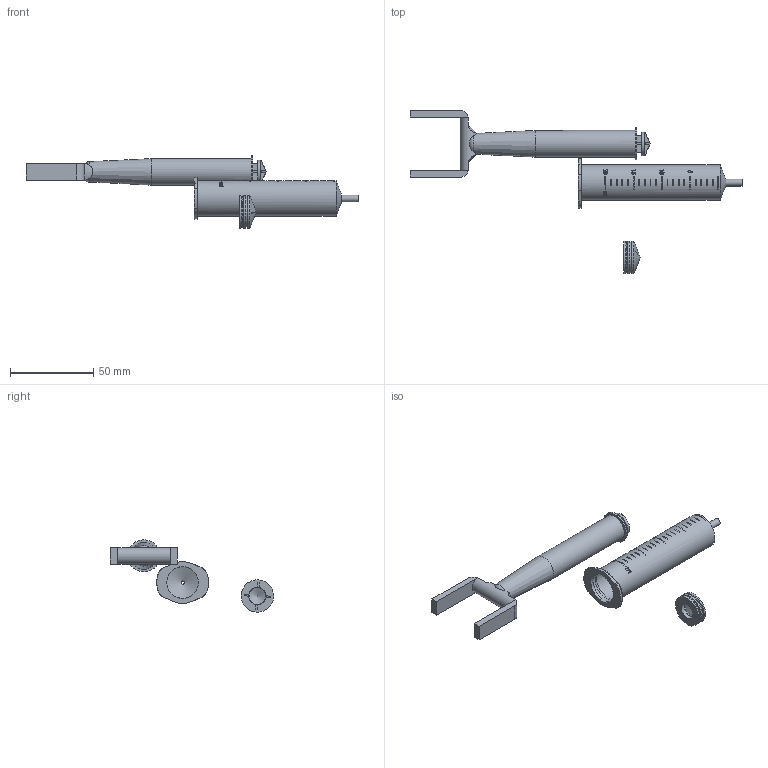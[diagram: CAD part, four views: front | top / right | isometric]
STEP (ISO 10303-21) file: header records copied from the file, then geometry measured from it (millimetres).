
FILE_DESCRIPTION(/* description */ ('STEP AP242 Edition 2','CAx-IF Rec.Pracs.---Representation and Presentation of Product Manufacturing Information (PMI)---4.0---2014-10-13','CAx-IF Rec.Pracs.---3D Tessellated Geometry---0.4---2014-09-14','2;1','CAx-IF Rec.Pracs.---User Defined Attributes---1.5---2016-08-15'),/* implementation_level */ '2;1');
FILE_NAME(/* name */ '695aff4cd13f1a02338895f0',/* time_stamp */ '2026-01-05T00:01:17Z',/* author */ (''),/* organization */ (''),/* preprocessor_version */ 'ST-DEVELOPER v20',/* originating_system */ 'ONSHAPE BY PTC INC, 1.208',/* authorisation */ ' ');
FILE_SCHEMA (('AP242_MANAGED_MODEL_BASED_3D_ENGINEERING_MIM_LF { 1 0 10303 442 3 1 4 }'));
Length unit declared in the file: metre
Products named in the file (4): Syringe 20 ml; Syringe_cylinder_20ml; Syringe_piston_20ml; Rubber tampon_20ml
Assembly tree (3 placements, depth 2):
  Syringe 20 ml
    Syringe_cylinder_20ml
    Syringe_piston_20ml
    Rubber tampon_20ml
Bounding box: 198.96 x 97.71 x 43.34 mm (x, y, z)
Volume: 30891.3 mm3; surface area: 22271.5 mm2
Topology: 3 solids, 3 shells, 488 faces, 1348 edges, 882 vertices
Faces by surface type: plane 326, cylinder 73, bspline 69, cone 16, torus 4
Full cylindrical faces by diameter (mm): 1.9 x1, 4.1 x1, 10 x1, 14 x2, 16 x1, 18.4 x1, 19 x1, 19.2 x1, 19.4 x3, 21.4 x1
Entity records: 32540 total; most frequent: CARTESIAN_POINT 18575, ORIENTED_EDGE 2630, DIRECTION 2228, EDGE_CURVE 1315, VERTEX_POINT 878, AXIS2_PLACEMENT_3D 749, LINE 730, VECTOR 730
